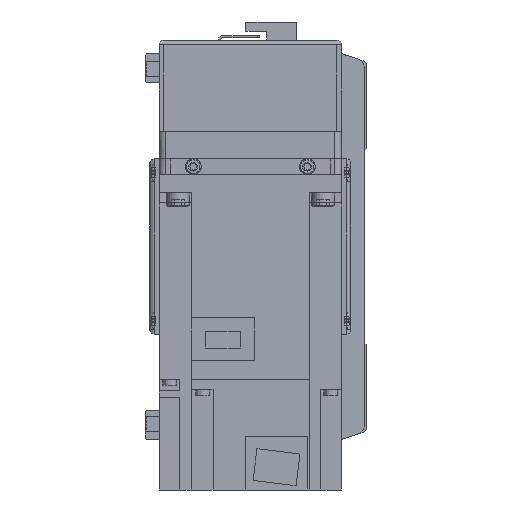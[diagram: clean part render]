
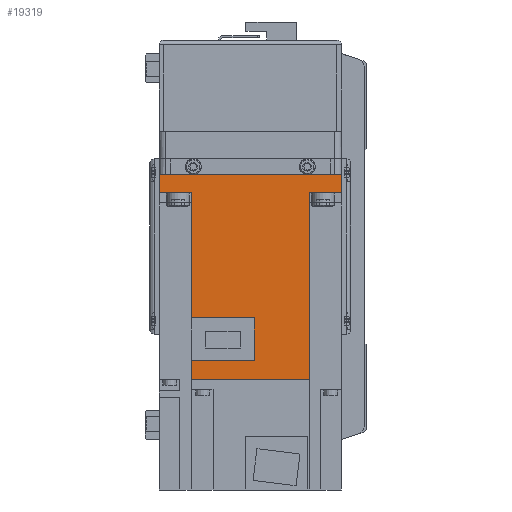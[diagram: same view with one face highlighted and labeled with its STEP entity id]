
A CAD part, left-side view. The second image highlights one B-rep face of the part: STEP entity #19319.
In plain terms, the highlighted planar face has unit normal (-1, 0, 0) as drawn and (1, 0, 0) by its records, which use the part's own axes.
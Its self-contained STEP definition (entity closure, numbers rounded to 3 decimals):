
#2167=ORIENTED_EDGE('',*,*,#7455,.F.);
#2168=ORIENTED_EDGE('',*,*,#7456,.F.);
#2169=ORIENTED_EDGE('',*,*,#7457,.F.);
#2170=ORIENTED_EDGE('',*,*,#7458,.T.);
#2171=ORIENTED_EDGE('',*,*,#7459,.F.);
#2172=ORIENTED_EDGE('',*,*,#7460,.T.);
#2173=ORIENTED_EDGE('',*,*,#7461,.T.);
#2174=ORIENTED_EDGE('',*,*,#7462,.F.);
#2175=ORIENTED_EDGE('',*,*,#7463,.F.);
#2176=ORIENTED_EDGE('',*,*,#7464,.F.);
#2177=ORIENTED_EDGE('',*,*,#7465,.F.);
#2178=ORIENTED_EDGE('',*,*,#7466,.F.);
#7455=EDGE_CURVE('',#10159,#10160,#12085,.T.);
#7456=EDGE_CURVE('',#10161,#10159,#12086,.T.);
#7457=EDGE_CURVE('',#10162,#10161,#12087,.T.);
#7458=EDGE_CURVE('',#10162,#10163,#12088,.T.);
#7459=EDGE_CURVE('',#10164,#10163,#12089,.T.);
#7460=EDGE_CURVE('',#10164,#10165,#12090,.T.);
#7461=EDGE_CURVE('',#10165,#10166,#12091,.T.);
#7462=EDGE_CURVE('',#10167,#10166,#12092,.T.);
#7463=EDGE_CURVE('',#10168,#10167,#12093,.T.);
#7464=EDGE_CURVE('',#10169,#10168,#12094,.T.);
#7465=EDGE_CURVE('',#10170,#10169,#12095,.T.);
#7466=EDGE_CURVE('',#10160,#10170,#12096,.T.);
#10159=VERTEX_POINT('',#29096);
#10160=VERTEX_POINT('',#29097);
#10161=VERTEX_POINT('',#29099);
#10162=VERTEX_POINT('',#29101);
#10163=VERTEX_POINT('',#29103);
#10164=VERTEX_POINT('',#29105);
#10165=VERTEX_POINT('',#29107);
#10166=VERTEX_POINT('',#29109);
#10167=VERTEX_POINT('',#29111);
#10168=VERTEX_POINT('',#29113);
#10169=VERTEX_POINT('',#29115);
#10170=VERTEX_POINT('',#29117);
#12085=LINE('',#29095,#13801);
#12086=LINE('',#29098,#13802);
#12087=LINE('',#29100,#13803);
#12088=LINE('',#29102,#13804);
#12089=LINE('',#29104,#13805);
#12090=LINE('',#29106,#13806);
#12091=LINE('',#29108,#13807);
#12092=LINE('',#29110,#13808);
#12093=LINE('',#29112,#13809);
#12094=LINE('',#29114,#13810);
#12095=LINE('',#29116,#13811);
#12096=LINE('',#29118,#13812);
#13801=VECTOR('',#23193,1000.);
#13802=VECTOR('',#23194,1000.);
#13803=VECTOR('',#23195,1000.);
#13804=VECTOR('',#23196,1000.);
#13805=VECTOR('',#23197,1000.);
#13806=VECTOR('',#23198,1000.);
#13807=VECTOR('',#23199,1000.);
#13808=VECTOR('',#23200,1000.);
#13809=VECTOR('',#23201,1000.);
#13810=VECTOR('',#23202,1000.);
#13811=VECTOR('',#23203,1000.);
#13812=VECTOR('',#23204,1000.);
#15509=EDGE_LOOP('',(#2167,#2168,#2169,#2170,#2171,#2172,#2173,#2174,#2175,
#2176,#2177,#2178));
#17091=FACE_BOUND('',#15509,.T.);
#18566=PLANE('',#20661);
#19319=ADVANCED_FACE('',(#17091),#18566,.F.);
#20661=AXIS2_PLACEMENT_3D('',#29094,#23191,#23192);
#23191=DIRECTION('',(-1.,0.,0.));
#23192=DIRECTION('',(0.,0.,1.));
#23193=DIRECTION('',(0.,0.,1.));
#23194=DIRECTION('',(0.,-1.,0.));
#23195=DIRECTION('',(0.,0.,-1.));
#23196=DIRECTION('',(0.,-1.,0.));
#23197=DIRECTION('',(0.,0.,-1.));
#23198=DIRECTION('',(0.,-1.,0.));
#23199=DIRECTION('',(0.,0.,-1.));
#23200=DIRECTION('',(0.,-1.,0.));
#23201=DIRECTION('',(0.,0.,-1.));
#23202=DIRECTION('',(0.,-1.,0.));
#23203=DIRECTION('',(0.,0.,-1.));
#23204=DIRECTION('',(0.,-1.,0.));
#29094=CARTESIAN_POINT('',(40.,89.8,40.));
#29095=CARTESIAN_POINT('',(40.,81.4,-26.));
#29096=CARTESIAN_POINT('',(40.,81.4,-25.95));
#29097=CARTESIAN_POINT('',(40.,81.4,1.8));
#29098=CARTESIAN_POINT('',(40.,158.,-25.95));
#29099=CARTESIAN_POINT('',(40.,89.8,-25.95));
#29100=CARTESIAN_POINT('',(40.,89.8,40.));
#29101=CARTESIAN_POINT('',(40.,89.8,25.95));
#29102=CARTESIAN_POINT('',(40.,158.,25.95));
#29103=CARTESIAN_POINT('',(40.,8.,25.95));
#29104=CARTESIAN_POINT('',(40.,8.,40.));
#29105=CARTESIAN_POINT('',(40.,8.,40.));
#29106=CARTESIAN_POINT('',(40.,89.8,40.));
#29107=CARTESIAN_POINT('',(40.,0.,40.));
#29108=CARTESIAN_POINT('',(40.,0.,40.));
#29109=CARTESIAN_POINT('',(40.,0.,-40.));
#29110=CARTESIAN_POINT('',(40.,89.8,-40.));
#29111=CARTESIAN_POINT('',(40.,8.,-40.));
#29112=CARTESIAN_POINT('',(40.,8.,40.));
#29113=CARTESIAN_POINT('',(40.,8.,-25.95));
#29114=CARTESIAN_POINT('',(40.,158.,-25.95));
#29115=CARTESIAN_POINT('',(40.,62.8,-25.95));
#29116=CARTESIAN_POINT('',(40.,62.8,1.8));
#29117=CARTESIAN_POINT('',(40.,62.8,1.8));
#29118=CARTESIAN_POINT('',(40.,81.4,1.8));
